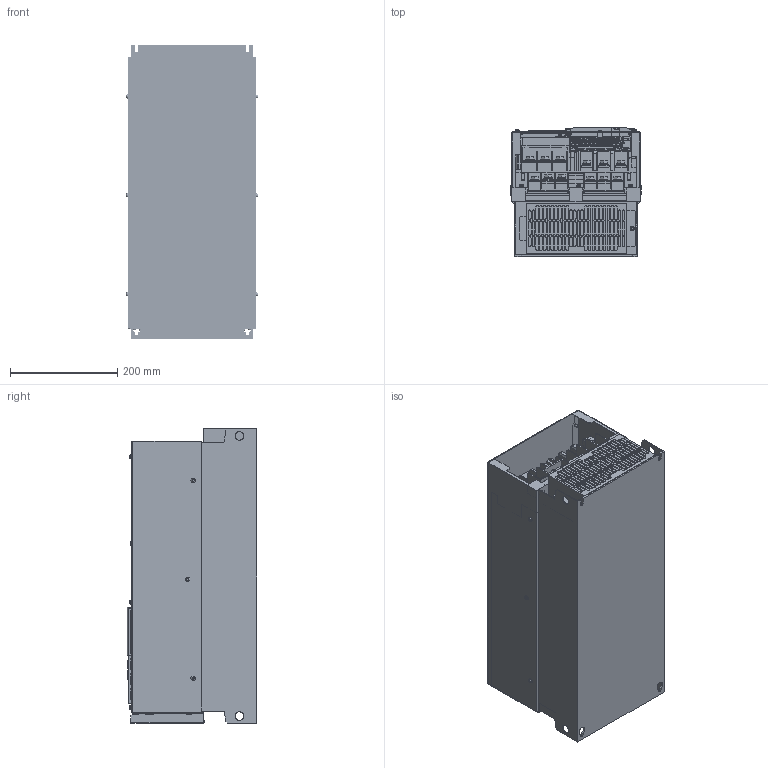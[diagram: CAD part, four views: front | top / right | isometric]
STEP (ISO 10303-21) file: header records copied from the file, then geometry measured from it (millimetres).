
FILE_DESCRIPTION((''),'2;1');
FILE_NAME('VFAS3J_J7_ASM','2019-09-19T10:54:09',('SESA57331'),('Schneider-Electric'),'CREO PARAMETRIC BY PTC INC, 2018300','CREO PARAMETRIC BY PTC INC, 2018300','');
FILE_SCHEMA(('CONFIG_CONTROL_DESIGN'));
Products named in the file (19): VFAS3J_DRIVE_J7; VFAS3J_CTR_TERM; VFAS3J_CTR_TERM_SHORT_BAR; VFAS3J_CTR_TERM_SCREW_M3-1; VFAS3J_CTR_TERM_SCREW_M3-2; VFAS3J_CTR_TERM_FL_COVER; VFAS3J_CTR_TERM_ASM; VFAS3J_DISPLAY; VFAS3J_DISPLAY_COVER; TERM_SUNT-BAR_M8; TERM_SCREW_M8X20; TERM_SCREW_M8X15; SCREW_M5X12; SCREW_M4X50; VFAS3J_TOP_COVER_J7; VFAS3J_FRONT_COVER_J7; VFAS3J_CTR_CAP; VFAS3J_FRONT_COVER_J7_ASM; VFAS3J_J7_ASM
Assembly tree (56 placements, depth 3):
  VFAS3J_J7_ASM
    VFAS3J_DRIVE_J7
    VFAS3J_CTR_TERM_ASM
      VFAS3J_CTR_TERM
      VFAS3J_CTR_TERM_SHORT_BAR  x2
      VFAS3J_CTR_TERM_SCREW_M3-1  x23
      VFAS3J_CTR_TERM_SCREW_M3-2  x3
      VFAS3J_CTR_TERM_FL_COVER
    VFAS3J_DISPLAY
    VFAS3J_DISPLAY_COVER
    TERM_SUNT-BAR_M8
    TERM_SCREW_M8X20  x9
    TERM_SCREW_M8X15  x3
    SCREW_M5X12  x4
    SCREW_M4X50
    VFAS3J_TOP_COVER_J7
    VFAS3J_FRONT_COVER_J7_ASM
      VFAS3J_FRONT_COVER_J7
      VFAS3J_CTR_CAP
Bounding box: 246 x 241.08 x 550 mm (x, y, z)
Volume: 23715780.2 mm3; surface area: 1470343.8 mm2
Topology: 54 solids, 56 shells, 5221 faces, 13541 edges, 8843 vertices
Faces by surface type: plane 3707, cylinder 1340, torus 108, sphere 26, bspline 20, cone 20
Entity records: 141827 total; most frequent: CARTESIAN_POINT 25580, ORIENTED_EDGE 24098, DIRECTION 23787, EDGE_CURVE 12049, VECTOR 9351, LINE 9351, VERTEX_POINT 7923, AXIS2_PLACEMENT_3D 7218
